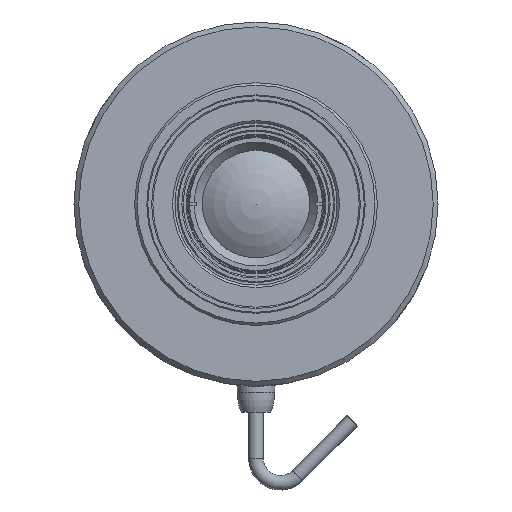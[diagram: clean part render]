
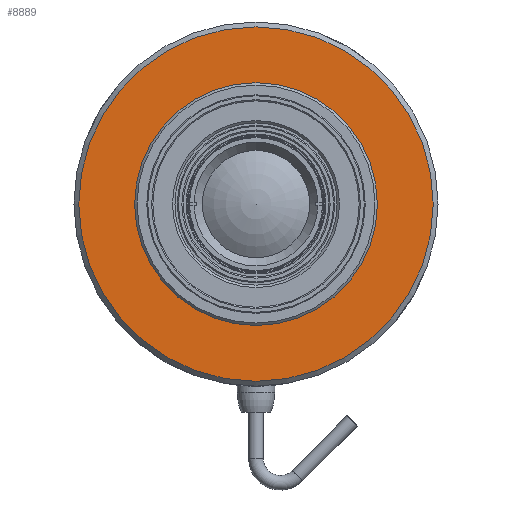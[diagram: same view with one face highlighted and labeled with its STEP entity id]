
A CAD part, front view. The second image highlights one B-rep face of the part: STEP entity #8889.
In plain terms, the highlighted planar face has unit normal (0, -1, 0).
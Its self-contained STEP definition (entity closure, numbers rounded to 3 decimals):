
#1875=ORIENTED_EDGE('',*,*,#3294,.F.);
#1876=ORIENTED_EDGE('',*,*,#3301,.T.);
#3294=EDGE_CURVE('',#4051,#4051,#4531,.T.);
#3301=EDGE_CURVE('',#4058,#4058,#4538,.T.);
#4051=VERTEX_POINT('',#12047);
#4058=VERTEX_POINT('',#12070);
#4531=CIRCLE('',#9325,36.5);
#4538=CIRCLE('',#9341,25.);
#4802=EDGE_LOOP('',(#1875));
#4803=EDGE_LOOP('',(#1876));
#5358=FACE_BOUND('',#4802,.T.);
#5359=FACE_BOUND('',#4803,.T.);
#5846=PLANE('',#9342);
#8889=ADVANCED_FACE('',(#5358,#5359),#5846,.F.);
#9325=AXIS2_PLACEMENT_3D('',#12046,#10199,#10200);
#9341=AXIS2_PLACEMENT_3D('',#12069,#10231,#10232);
#9342=AXIS2_PLACEMENT_3D('',#12071,#10233,#10234);
#10199=DIRECTION('',(0.,1.,0.));
#10200=DIRECTION('',(0.,0.,1.));
#10231=DIRECTION('',(0.,1.,0.));
#10232=DIRECTION('',(0.,0.,1.));
#10233=DIRECTION('',(0.,1.,0.));
#10234=DIRECTION('',(0.,0.,1.));
#12046=CARTESIAN_POINT('',(0.,-71.583,0.));
#12047=CARTESIAN_POINT('',(0.,-71.583,36.5));
#12069=CARTESIAN_POINT('',(0.,-71.583,0.));
#12070=CARTESIAN_POINT('',(0.,-71.583,25.));
#12071=CARTESIAN_POINT('',(0.,-71.583,37.5));
